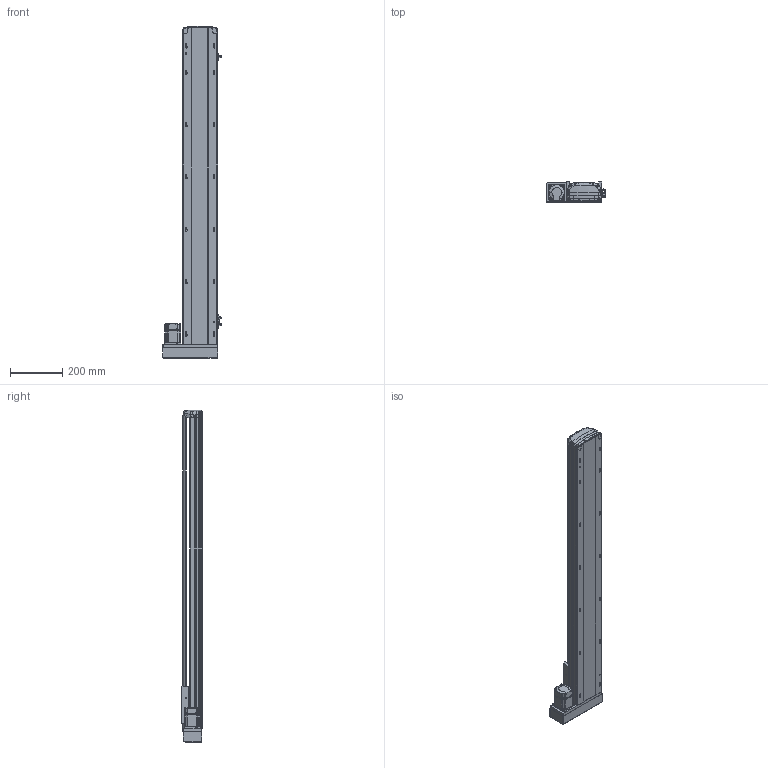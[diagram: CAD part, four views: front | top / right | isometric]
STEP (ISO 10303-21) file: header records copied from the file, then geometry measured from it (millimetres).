
FILE_DESCRIPTION (( 'STEP AP214' ), '1' );
FILE_NAME ('RTH14-XX-1000-L-M20-C4.STEP', '2025-10-25T02:41:20', ( 'Microsoft' ), ( 'Microsoft' ), 'SwSTEP 2.0', 'SolidWorks 2018', '' );
FILE_SCHEMA (( 'AUTOMOTIVE_DESIGN' ));
Length unit declared in the file: millimetre
Products named in the file (10): N_RTH14-M-007P奻裔^RTH14-XX-XX-L-M20-C4; N_RTH14-R-004-SFSR16賑釱^RTH14-XX-XX-L-M20-C4; N_RTH14-M-011P菁釱^RTH14-XX-XX-L-M20-C4; RTH14-XX-1000-L-M20-C4; N_RTH13-L-018 裔赽^RTH14-XX-XX-L-M20-C4; N_RTH13-L-012感应片（外置）^RTH14-XX-XX-L-M20-C4; N_MSMD022P1AA_200W^RTH14-XX-XX-L-M20-C4; N_RTH14-GY-001P^RTH14-XX-XX-L-M20-C4; N_OMRON EE-SX672 传感器^RTH14-XX-XX-L-M20-C4; N_RTH13-L-008-P20 萇儂啣酘蛌殏^RTH14-XX-XX-L-M20-C4
Assembly tree (11 placements, depth 2):
  RTH14-XX-1000-L-M20-C4
    N_RTH14-M-011P菁釱^RTH14-XX-XX-L-M20-C4
    N_RTH14-M-007P奻裔^RTH14-XX-XX-L-M20-C4
    N_MSMD022P1AA_200W^RTH14-XX-XX-L-M20-C4
    N_RTH13-L-008-P20 萇儂啣酘蛌殏^RTH14-XX-XX-L-M20-C4
    N_RTH13-L-018 裔赽^RTH14-XX-XX-L-M20-C4
    N_RTH13-L-012感应片（外置）^RTH14-XX-XX-L-M20-C4
    N_OMRON EE-SX672 传感器^RTH14-XX-XX-L-M20-C4  x3
    N_RTH14-GY-001P^RTH14-XX-XX-L-M20-C4
    N_RTH14-R-004-SFSR16賑釱^RTH14-XX-XX-L-M20-C4
Bounding box: 224 x 78.03 x 1267.49 mm (x, y, z)
Volume: 5457852.5 mm3; surface area: 1258536.8 mm2
Topology: 11 solids, 11 shells, 1896 faces, 5303 edges, 3474 vertices
Faces by surface type: plane 993, cylinder 509, bspline 345, cone 45, torus 4
Entity records: 58081 total; most frequent: CARTESIAN_POINT 23265, ORIENTED_EDGE 7674, DIRECTION 6206, EDGE_CURVE 3837, VERTEX_POINT 2510, LINE 2182, VECTOR 2182, AXIS2_PLACEMENT_3D 2012
